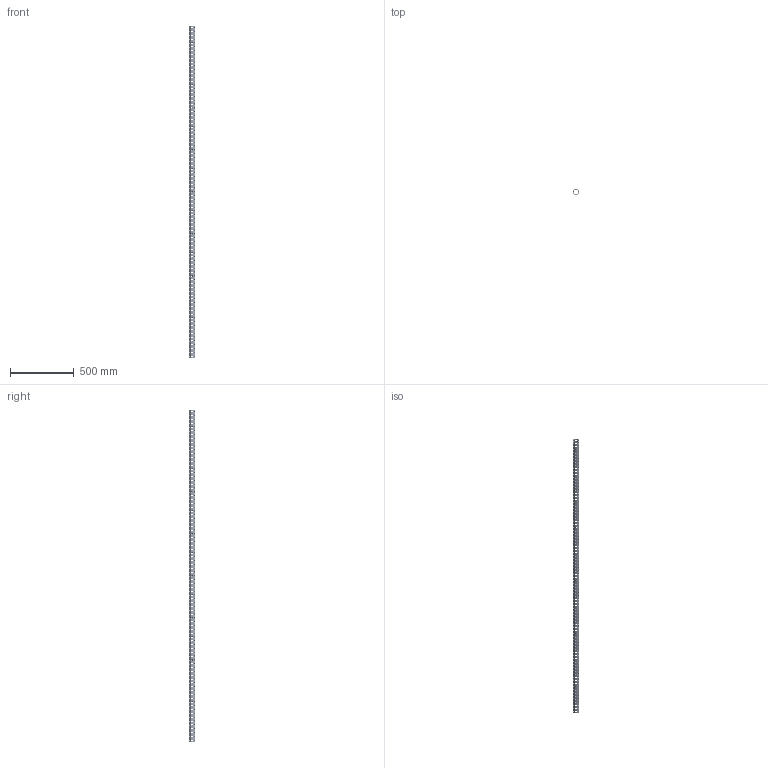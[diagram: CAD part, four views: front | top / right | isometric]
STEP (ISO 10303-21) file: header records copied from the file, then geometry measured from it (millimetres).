
FILE_DESCRIPTION(('CATIA V5 STEP Exchange'),'2;1');
FILE_NAME('U:\Room\唐宝山\EGT002\46-01-010316-01-EGT002-2608.stp','2021-08-24T02:15:57+00:00',('none'),('none'),'CATIA Version 5 Release 21 GA (IN-10)','CATIA V5 STEP AP203','none');
FILE_SCHEMA(('CONFIG_CONTROL_DESIGN'));
Products named in the file (1): 46-01-010316-01-EGT002-2608
Bounding box: 50 x 50 x 2608 mm (x, y, z)
Volume: 1858258.9 mm3; surface area: 895343.5 mm2
Topology: 1 solids, 1 shells, 3564 faces, 9816 edges, 6080 vertices
Faces by surface type: cone 2088, cylinder 1450, plane 26
Entity records: 152314 total; most frequent: CARTESIAN_POINT 66709, ORIENTED_EDGE 19632, DIRECTION 13540, EDGE_CURVE 9816, AXIS2_PLACEMENT_3D 6193, VERTEX_POINT 6080, EDGE_LOOP 4784, VECTOR 3784
